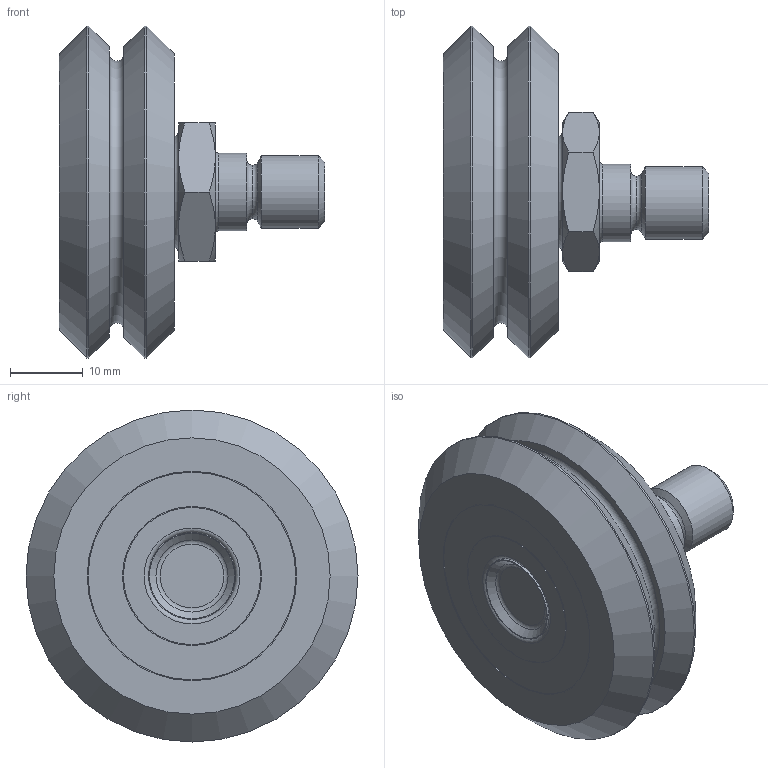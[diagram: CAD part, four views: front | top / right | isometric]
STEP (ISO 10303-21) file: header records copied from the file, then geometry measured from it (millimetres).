
FILE_DESCRIPTION( ( 'STEP AP214' ), '1' );
FILE_NAME( 'p:/temp/worker_51/temp/app_48_02019012316083357951590192d056f_000000_00_00_000000/format_0/SWSE3XA.stp', '2019-01-23T15:08:34', ( '' ), ( '' ), ' ', 'PARTsolutions', ' ' );
FILE_SCHEMA( ( 'AUTOMOTIVE_DESIGN { 1 0 10303 214 1 1 1 1 }' ) );
Length unit declared in the file: inch
Products named in the file (3): SWSE3XA; _SWSE3; _W3X
Assembly tree (2 placements, depth 2):
  SWSE3XA
    _SWSE3
    _W3X
Bounding box: 36.68 x 45.8 x 45.8 mm (x, y, z)
Volume: 24410.8 mm3; surface area: 8035.4 mm2
Topology: 2 solids, 2 shells, 68 faces, 121 edges, 72 vertices
Faces by surface type: plane 25, cone 19, cylinder 15, torus 9
Full cylindrical faces by diameter (mm): 7.366 x1, 10 x1, 10.719 x1, 11.989 x1, 11.999 x1, 18.923 x2, 19.177 x2, 28.638 x2, 28.892 x2, 45.796 x2
Entity records: 2172 total; most frequent: CARTESIAN_POINT 369, DIRECTION 268, ORIENTED_EDGE 180, AXIS2_PLACEMENT_3D 131, EDGE_LOOP 116, FACE_OUTER_BOUND 92, EDGE_CURVE 90, VERTEX_POINT 72
